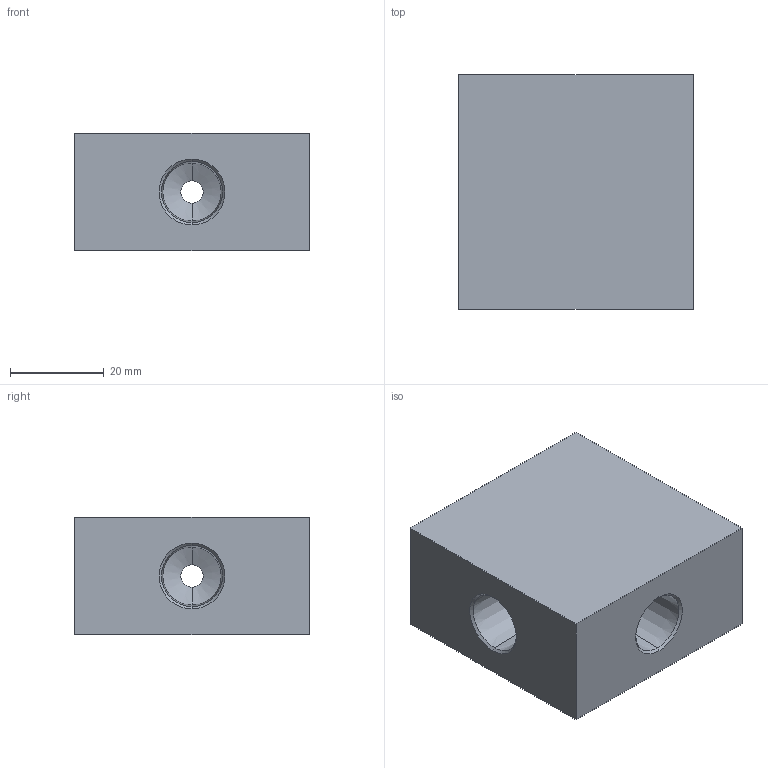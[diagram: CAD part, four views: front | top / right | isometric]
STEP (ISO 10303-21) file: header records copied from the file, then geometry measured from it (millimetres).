
FILE_DESCRIPTION (( 'STEP AP203' ), '1' );
FILE_NAME ('FTPCS04.STEP', '2026-06-26T01:09:23', ( 'USER' ), ( '' ), 'SwSTEP 2.0', 'SolidWorks 2023', '' );
FILE_SCHEMA (( 'CONFIG_CONTROL_DESIGN' ));
Length unit declared in the file: millimetre
Products named in the file (1): FTPCS04
Bounding box: 50 x 50 x 25 mm (x, y, z)
Volume: 54113.1 mm3; surface area: 12643.5 mm2
Topology: 1 solids, 1 shells, 46 faces, 96 edges, 50 vertices
Faces by surface type: cone 24, cylinder 16, plane 6
Entity records: 1273 total; most frequent: DIRECTION 226, CARTESIAN_POINT 205, ORIENTED_EDGE 192, EDGE_CURVE 96, AXIS2_PLACEMENT_3D 87, VECTOR 52, LINE 52, VERTEX_POINT 50
